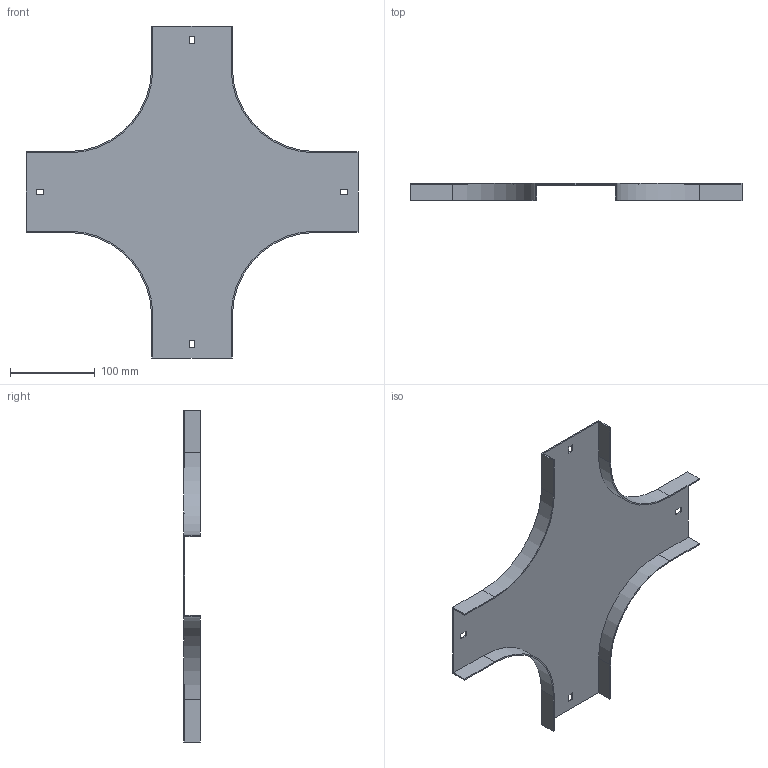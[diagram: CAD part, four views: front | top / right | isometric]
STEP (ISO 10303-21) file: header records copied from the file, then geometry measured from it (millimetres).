
FILE_DESCRIPTION (( 'STEP AP214' ), '1' );
FILE_NAME ('17N1R092.step', '2025-02-21T09:52:34', ( '' ), ( '' ), 'SwSTEP 2.0', 'SolidWorks 2023', '' );
FILE_SCHEMA (( 'AUTOMOTIVE_DESIGN' ));
Length unit declared in the file: millimetre
Products named in the file (1): 17N1R092
Bounding box: 392.5 x 20 x 392.5 mm (x, y, z)
Volume: 139317.7 mm3; surface area: 188266.2 mm2
Topology: 1 solids, 1 shells, 50 faces, 144 edges, 96 vertices
Faces by surface type: plane 42, cylinder 8
Entity records: 1663 total; most frequent: CARTESIAN_POINT 291, ORIENTED_EDGE 288, DIRECTION 262, EDGE_CURVE 144, VECTOR 128, LINE 128, VERTEX_POINT 96, AXIS2_PLACEMENT_3D 67
